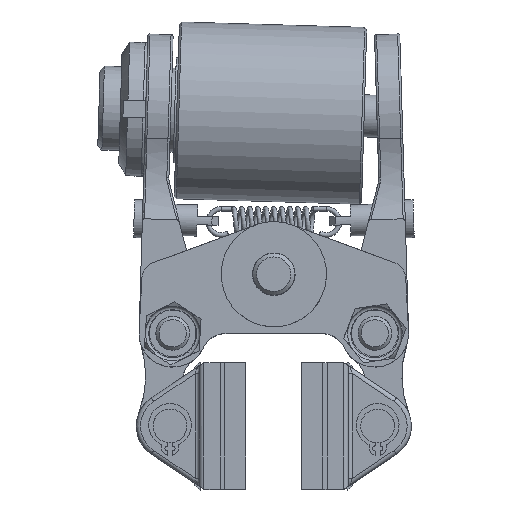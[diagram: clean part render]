
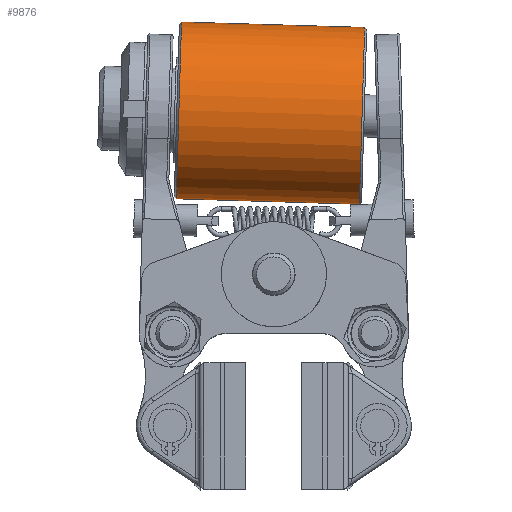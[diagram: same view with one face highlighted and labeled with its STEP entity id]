
A CAD part, top view. The second image highlights one B-rep face of the part: STEP entity #9876.
In plain terms, the highlighted cylindrical face has radius 21 mm (diameter 42 mm), a full revolution.
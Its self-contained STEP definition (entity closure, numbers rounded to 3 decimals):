
#183=B_SPLINE_CURVE_WITH_KNOTS('',3,(#14786,#14787,#14788,#14789,#14790,
#14791,#14792,#14793,#14794,#14795,#14796,#14797,#14798,#14799,#14800,#14801,
#14802,#14803),.UNSPECIFIED.,.F.,.F.,(4,2,2,2,2,2,2,2,4),(0.647,
0.809,0.971,1.133,1.295,1.456,
1.618,1.78,1.942),.UNSPECIFIED.);
#184=B_SPLINE_CURVE_WITH_KNOTS('',3,(#14806,#14807,#14808,#14809,#14810,
#14811,#14812,#14813,#14814,#14815,#14816,#14817,#14818,#14819,#14820,#14821,
#14822,#14823,#14824),.UNSPECIFIED.,.F.,.F.,(4,2,2,2,3,2,2,2,4),(1.942,
2.104,2.266,2.427,2.589,2.751,
2.913,3.075,3.236),.UNSPECIFIED.);
#424=CYLINDRICAL_SURFACE('',#10507,21.);
#617=FACE_OUTER_BOUND('',#1161,.T.);
#1161=EDGE_LOOP('',(#6281,#6282,#6283,#6284,#6285,#6286,#6287,#6288,#6289,
#6290));
#1760=LINE('',#14834,#2420);
#1761=LINE('',#14836,#2421);
#2420=VECTOR('',#11808,21.);
#2421=VECTOR('',#11809,21.);
#3114=CIRCLE('',#10505,21.);
#3115=CIRCLE('',#10506,21.);
#3116=CIRCLE('',#10508,21.);
#3117=CIRCLE('',#10509,21.);
#3710=VERTEX_POINT('',#14784);
#3711=VERTEX_POINT('',#14785);
#3713=VERTEX_POINT('',#14828);
#3714=VERTEX_POINT('',#14830);
#3715=VERTEX_POINT('',#14835);
#3716=VERTEX_POINT('',#14837);
#4712=EDGE_CURVE('',#3710,#3711,#183,.T.);
#4715=EDGE_CURVE('',#3711,#3710,#184,.T.);
#4718=EDGE_CURVE('',#3713,#3714,#3114,.T.);
#4719=EDGE_CURVE('',#3714,#3713,#3115,.T.);
#4720=EDGE_CURVE('',#3714,#3710,#1760,.T.);
#4721=EDGE_CURVE('',#3711,#3715,#1761,.T.);
#4722=EDGE_CURVE('',#3716,#3715,#3116,.T.);
#4723=EDGE_CURVE('',#3715,#3716,#3117,.T.);
#6281=ORIENTED_EDGE('',*,*,#4718,.F.);
#6282=ORIENTED_EDGE('',*,*,#4719,.F.);
#6283=ORIENTED_EDGE('',*,*,#4720,.T.);
#6284=ORIENTED_EDGE('',*,*,#4712,.T.);
#6285=ORIENTED_EDGE('',*,*,#4721,.T.);
#6286=ORIENTED_EDGE('',*,*,#4722,.F.);
#6287=ORIENTED_EDGE('',*,*,#4723,.F.);
#6288=ORIENTED_EDGE('',*,*,#4721,.F.);
#6289=ORIENTED_EDGE('',*,*,#4715,.T.);
#6290=ORIENTED_EDGE('',*,*,#4720,.F.);
#9876=ADVANCED_FACE('',(#617),#424,.T.);
#10505=AXIS2_PLACEMENT_3D('',#14831,#11802,#11803);
#10506=AXIS2_PLACEMENT_3D('',#14832,#11804,#11805);
#10507=AXIS2_PLACEMENT_3D('',#14833,#11806,#11807);
#10508=AXIS2_PLACEMENT_3D('',#14838,#11810,#11811);
#10509=AXIS2_PLACEMENT_3D('',#14839,#11812,#11813);
#11802=DIRECTION('center_axis',(-1.,0.03,0.));
#11803=DIRECTION('ref_axis',(0.,0.,
-1.));
#11804=DIRECTION('center_axis',(-1.,0.03,0.));
#11805=DIRECTION('ref_axis',(0.,0.,
-1.));
#11806=DIRECTION('center_axis',(-1.,0.03,0.));
#11807=DIRECTION('ref_axis',(0.,0.,
1.));
#11808=DIRECTION('',(1.,-0.03,0.));
#11809=DIRECTION('',(1.,-0.03,0.));
#11810=DIRECTION('center_axis',(1.,-0.03,0.));
#11811=DIRECTION('ref_axis',(0.,0.,
-1.));
#11812=DIRECTION('center_axis',(1.,-0.03,0.));
#11813=DIRECTION('ref_axis',(0.,0.,
-1.));
#14784=CARTESIAN_POINT('',(9.669,60.028,-1.5));
#14785=CARTESIAN_POINT('',(18.231,59.775,-1.5));
#14786=CARTESIAN_POINT('Ctrl Pts',(9.669,60.028,-1.5));
#14787=CARTESIAN_POINT('Ctrl Pts',(9.653,59.489,-1.5));
#14788=CARTESIAN_POINT('Ctrl Pts',(9.744,58.912,-1.477));
#14789=CARTESIAN_POINT('Ctrl Pts',(10.15,57.844,-1.394));
#14790=CARTESIAN_POINT('Ctrl Pts',(10.465,57.354,-1.336));
#14791=CARTESIAN_POINT('Ctrl Pts',(11.201,56.573,-1.225));
#14792=CARTESIAN_POINT('Ctrl Pts',(11.672,56.23,-1.166));
#14793=CARTESIAN_POINT('Ctrl Pts',(12.713,55.761,-1.082));
#14794=CARTESIAN_POINT('Ctrl Pts',(13.284,55.636,-1.059));
#14795=CARTESIAN_POINT('Ctrl Pts',(14.363,55.604,-1.059));
#14796=CARTESIAN_POINT('Ctrl Pts',(14.94,55.695,-1.082));
#14797=CARTESIAN_POINT('Ctrl Pts',(16.007,56.102,-1.166));
#14798=CARTESIAN_POINT('Ctrl Pts',(16.497,56.417,-1.225));
#14799=CARTESIAN_POINT('Ctrl Pts',(17.278,57.153,-1.336));
#14800=CARTESIAN_POINT('Ctrl Pts',(17.622,57.623,-1.394));
#14801=CARTESIAN_POINT('Ctrl Pts',(18.09,58.665,-1.477));
#14802=CARTESIAN_POINT('Ctrl Pts',(18.215,59.236,-1.5));
#14803=CARTESIAN_POINT('Ctrl Pts',(18.231,59.775,-1.5));
#14806=CARTESIAN_POINT('Ctrl Pts',(18.231,59.775,-1.5));
#14807=CARTESIAN_POINT('Ctrl Pts',(18.247,60.314,-1.5));
#14808=CARTESIAN_POINT('Ctrl Pts',(18.156,60.891,-1.477));
#14809=CARTESIAN_POINT('Ctrl Pts',(17.75,61.959,-1.394));
#14810=CARTESIAN_POINT('Ctrl Pts',(17.435,62.449,-1.336));
#14811=CARTESIAN_POINT('Ctrl Pts',(16.699,63.23,-1.225));
#14812=CARTESIAN_POINT('Ctrl Pts',(16.228,63.573,-1.166));
#14813=CARTESIAN_POINT('Ctrl Pts',(15.187,64.042,-1.082));
#14814=CARTESIAN_POINT('Ctrl Pts',(14.616,64.167,-1.059));
#14815=CARTESIAN_POINT('Ctrl Pts',(14.077,64.183,-1.059));
#14816=CARTESIAN_POINT('Ctrl Pts',(13.537,64.198,-1.059));
#14817=CARTESIAN_POINT('Ctrl Pts',(12.96,64.107,-1.082));
#14818=CARTESIAN_POINT('Ctrl Pts',(11.893,63.701,-1.166));
#14819=CARTESIAN_POINT('Ctrl Pts',(11.403,63.386,-1.225));
#14820=CARTESIAN_POINT('Ctrl Pts',(10.622,62.65,-1.336));
#14821=CARTESIAN_POINT('Ctrl Pts',(10.278,62.179,-1.394));
#14822=CARTESIAN_POINT('Ctrl Pts',(9.81,61.138,-1.477));
#14823=CARTESIAN_POINT('Ctrl Pts',(9.685,60.567,-1.5));
#14824=CARTESIAN_POINT('Ctrl Pts',(9.669,60.028,-1.5));
#14828=CARTESIAN_POINT('',(-22.534,60.98,40.5));
#14830=CARTESIAN_POINT('',(-22.534,60.98,-1.5));
#14831=CARTESIAN_POINT('Origin',(-22.534,60.98,19.5));
#14832=CARTESIAN_POINT('Origin',(-22.534,60.98,19.5));
#14833=CARTESIAN_POINT('Origin',(-0.794,60.337,19.5));
#14834=CARTESIAN_POINT('',(-0.794,60.337,-1.5));
#14835=CARTESIAN_POINT('',(20.947,59.695,-1.5));
#14836=CARTESIAN_POINT('',(-0.794,60.337,-1.5));
#14837=CARTESIAN_POINT('',(20.947,59.695,40.5));
#14838=CARTESIAN_POINT('Origin',(20.947,59.695,19.5));
#14839=CARTESIAN_POINT('Origin',(20.947,59.695,19.5));
